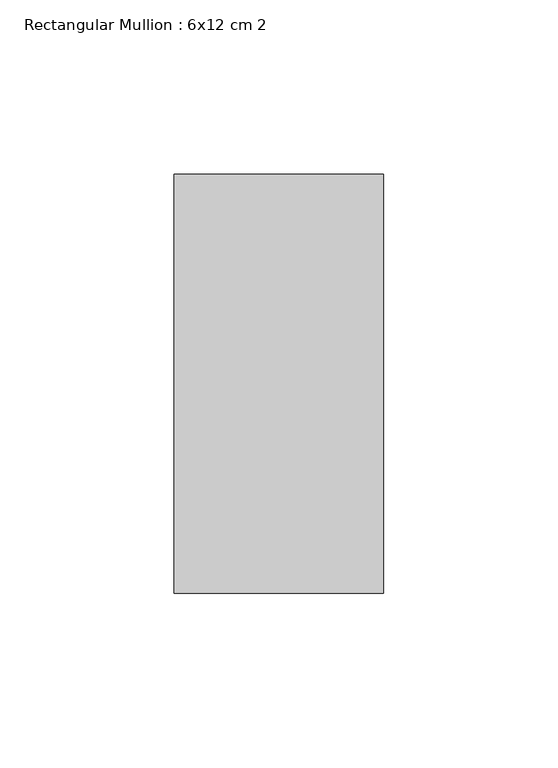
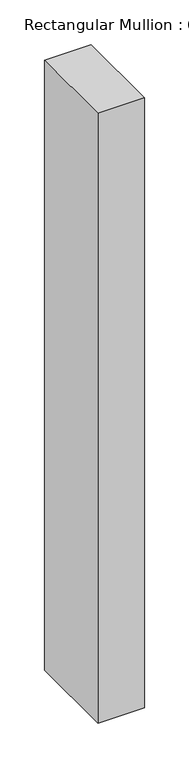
"""IFC4 building model written with IfcOpenShell, lengths in millimetres: member geometry, Rectangular Mullion : 6x12 cm 2."""

from ifc_helpers import new_model, si_unit, frame, origin, place, context, project, spatial, polyline, outline, extrude, source, transform, mapped, element, save


def rectangular_mullion_6x12_cm_2_0122ac8c(model_context):
    return source(origin(), model_context, "Body", "SweptSolid", [
        extrude(outline(polyline([(0.0, 205.0), (0.0, 85.0), (-60.0, 85.0), (-60.0, 205.0), (0.0, 205.0)])), frame((0.0, 0.0, -833.8713212), z_axis=(0.0, 0.0, 1.0), x_axis=(1.0, 0.0, 0.0)), (0.0, 0.0, 1.0), 833.8713212),
    ])


if __name__ == "__main__":
    model = new_model("IFC4")
    model_context = context("Model", 3, world=origin())
    ifc_project = project(units=[si_unit("LENGTHUNIT", "METRE", prefix="MILLI")], contexts=[model_context])
    site = spatial("IfcSite", under=ifc_project)
    building = spatial("IfcBuilding", under=site)
    placement = place(None, origin())
    rectangular_mullion_6x12_cm_2_shape = rectangular_mullion_6x12_cm_2_0122ac8c(model_context)
    element("IfcMember", 1, ObjectType="Rectangular Mullion : 6x12 cm 2", at=placement, inside=building, context=model_context, shape_type="MappedRepresentation", body=[
        mapped(rectangular_mullion_6x12_cm_2_shape, transform((0.0, 0.0, 0.0), x_axis=(1.0, 0.0, 0.0), y_axis=(0.0, 1.0, 0.0), z_axis=(0.0, 0.0, 1.0))),
    ])
    save(model, "model.ifc")
